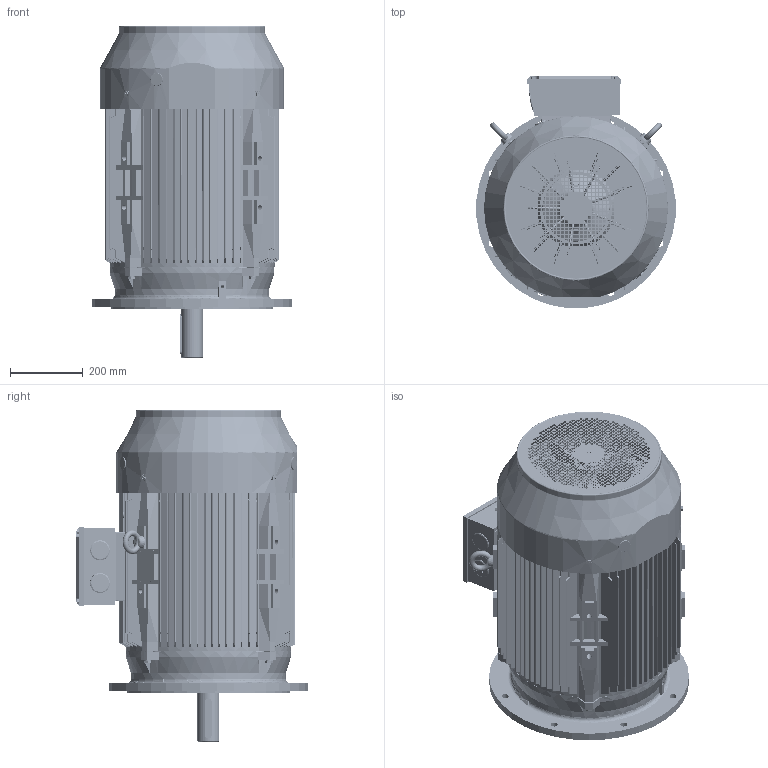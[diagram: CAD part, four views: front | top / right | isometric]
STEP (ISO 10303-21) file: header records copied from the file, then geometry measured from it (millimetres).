
FILE_DESCRIPTION (( 'STEP AP214' ), '1' );
FILE_NAME ('BCT4550.25D205.11.step', '2020-04-23T13:52:04', ( '' ), ( '' ), 'SwSTEP 2.0', 'SolidWorks 2019', '' );
FILE_SCHEMA (( 'AUTOMOTIVE_DESIGN' ));
Length unit declared in the file: millimetre
Products named in the file (1): BCT4550.25D205.11
Bounding box: 547.91 x 637.95 x 913.5 mm (x, y, z)
Volume: 26570572.3 mm3; surface area: 5931858.4 mm2
Topology: 46 solids, 47 shells, 9407 faces, 27240 edges, 17877 vertices
Faces by surface type: plane 4495, cylinder 3847, cone 358, bspline 316, torus 267, sphere 124
Entity records: 348952 total; most frequent: CARTESIAN_POINT 96506, ORIENTED_EDGE 54056, DIRECTION 51484, EDGE_CURVE 27028, VERTEX_POINT 17815, AXIS2_PLACEMENT_3D 17794, VECTOR 15896, LINE 15896
